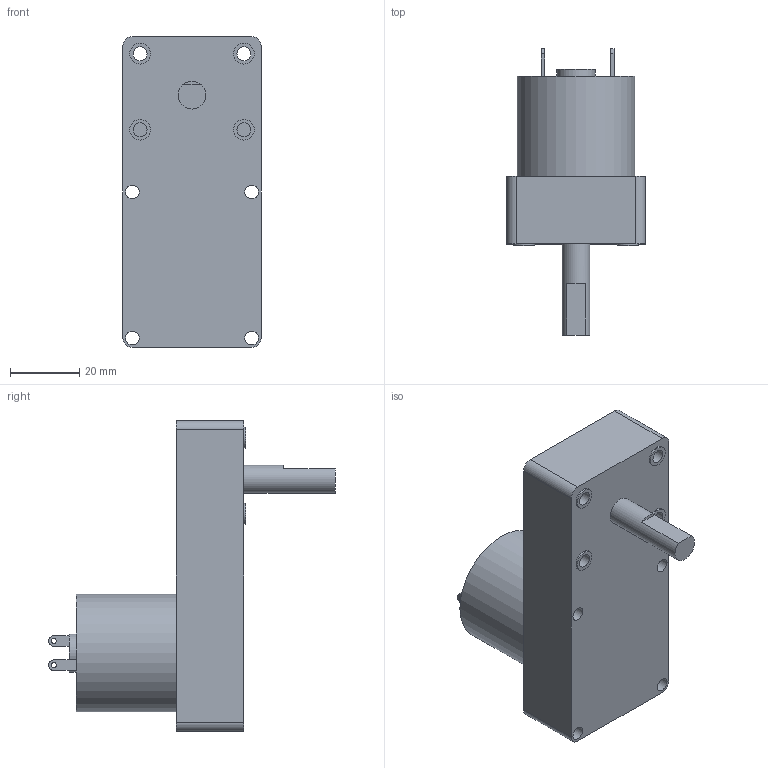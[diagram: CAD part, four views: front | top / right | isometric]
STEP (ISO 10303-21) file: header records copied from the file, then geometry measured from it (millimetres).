
FILE_DESCRIPTION((''),'2;1');
FILE_NAME('E:\2공장-도면\3D\표준형 3D(민규)\1공장 step\KGG F TYPE.stp','2015-02-26T12:32:41',('AHN'),(''),'Autodesk Inventor 2012','Autodesk Inventor 2012','');
FILE_SCHEMA(('CONFIG_CONTROL_DESIGN'));
Length unit declared in the file: millimetre
Products named in the file (1): KGG F타입
Bounding box: 40 x 83 x 90 mm (x, y, z)
Volume: 95997 mm3; surface area: 17974.1 mm2
Topology: 1 solids, 1 shells, 48 faces, 105 edges, 70 vertices
Faces by surface type: plane 25, cylinder 23
Full cylindrical faces by diameter (mm): 1.5 x2, 4 x8, 6 x4, 8 x1, 11 x1, 34 x1
Entity records: 1300 total; most frequent: DIRECTION 232, CARTESIAN_POINT 205, ORIENTED_EDGE 174, AXIS2_PLACEMENT_3D 96, EDGE_LOOP 92, EDGE_CURVE 87, VERTEX_POINT 69, FACE_OUTER_BOUND 48
